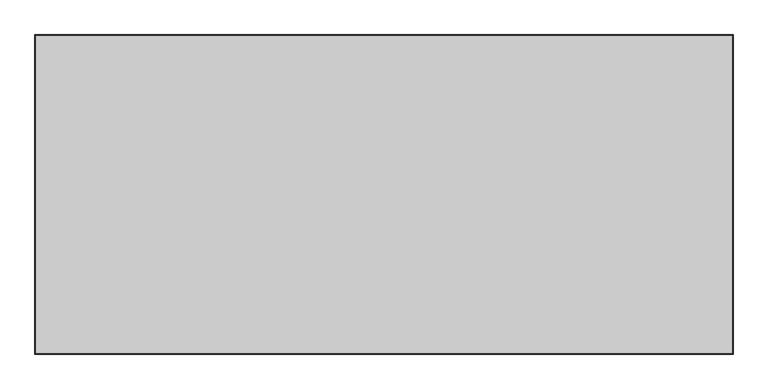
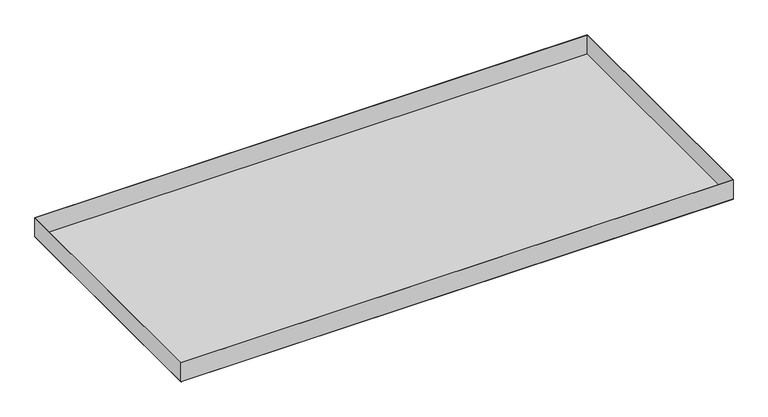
"""IFC4 building model written with IfcOpenShell, lengths in millimetres: proxy geometry, durlum_S-OM-100-RHOMBOS_panel : durlum_S-OM-100-RHOMBOS_panel_wall_width_cut."""

from ifc_helpers import new_model, si_unit, frame, origin, origin_with_axes, place, context, project, spatial, polyline, outline, extrude, source, transform, mapped, element, save


def generic_models_6363a089(model_context):
    return source(origin(), model_context, "Body", "SweptSolid", [
        extrude(outline(polyline([(545.0, 249.5), (545.0, -249.5), (-545.0, -249.5), (-545.0, 249.5), (545.0, 249.5)]), holes=[polyline([(544.4, 248.9), (-544.4, 248.9), (-544.4, -248.9), (544.4, -248.9), (544.4, 248.9)])]), frame((0.0, 0.0, 0.6), z_axis=(0.0, 0.0, 1.0), x_axis=(1.0, 0.0, 0.0)), (0.0, 0.0, 1.0), 39.4),
        extrude(outline(polyline([(544.0, 248.5), (544.0, -248.5), (-544.0, -248.5), (-544.0, 248.5), (544.0, 248.5)])), frame((0.0, 0.0, 0.6), z_axis=(0.0, 0.0, 1.0), x_axis=(1.0, 0.0, 0.0)), (0.0, 0.0, 1.0), 0.6),
        extrude(outline(polyline([(545.0, 249.5), (545.0, -249.5), (-545.0, -249.5), (-545.0, 249.5), (545.0, 249.5)]), holes=[polyline([(544.0, 248.5), (-544.0, 248.5), (-544.0, -248.5), (544.0, -248.5), (544.0, 248.5)])]), origin_with_axes(), (0.0, 0.0, 1.0), 0.6),
        extrude(outline(polyline([(544.0, 248.5), (544.0, -248.5), (-544.0, -248.5), (-544.0, 248.5), (544.0, 248.5)])), origin_with_axes(), (0.0, 0.0, 1.0), 0.6),
    ])


if __name__ == "__main__":
    model = new_model("IFC4")
    model_context = context("Model", 3, world=origin())
    ifc_project = project(units=[si_unit("LENGTHUNIT", "METRE", prefix="MILLI")], contexts=[model_context])
    site = spatial("IfcSite", under=ifc_project)
    building = spatial("IfcBuilding", under=site)
    placement = place(None, origin())
    generic_models_shape = generic_models_6363a089(model_context)
    element("IfcBuildingElementProxy", 1, Name="durlum_S-OM-100-RHOMBOS_panel : durlum_S-OM-100-RHOMBOS_panel_wall_width_cut", ObjectType="durlum_S-OM-100-RHOMBOS_panel : durlum_S-OM-100-RHOMBOS_panel_wall_width_cut", at=placement, inside=building, context=model_context, shape_type="MappedRepresentation", body=[
        mapped(generic_models_shape, transform((0.0, 0.0, 0.0), x_axis=(1.0, 0.0, 0.0), y_axis=(0.0, 1.0, 0.0), z_axis=(0.0, 0.0, 1.0))),
    ])
    save(model, "model.ifc")
